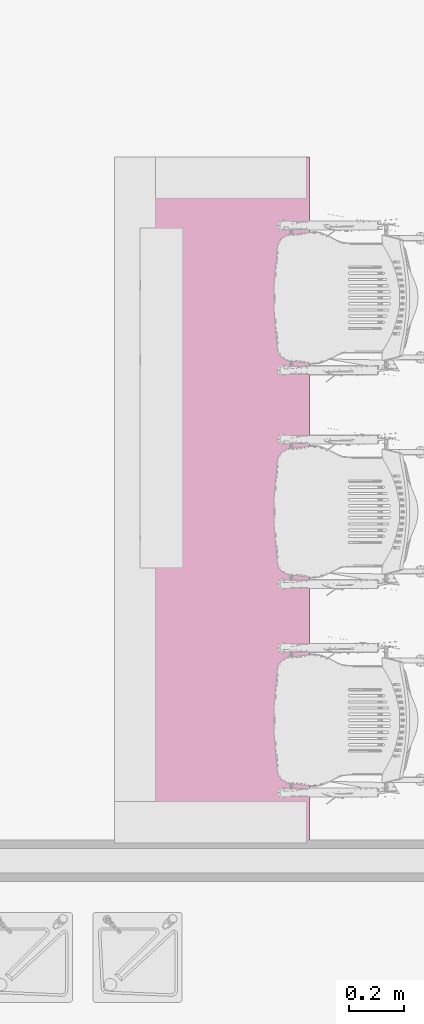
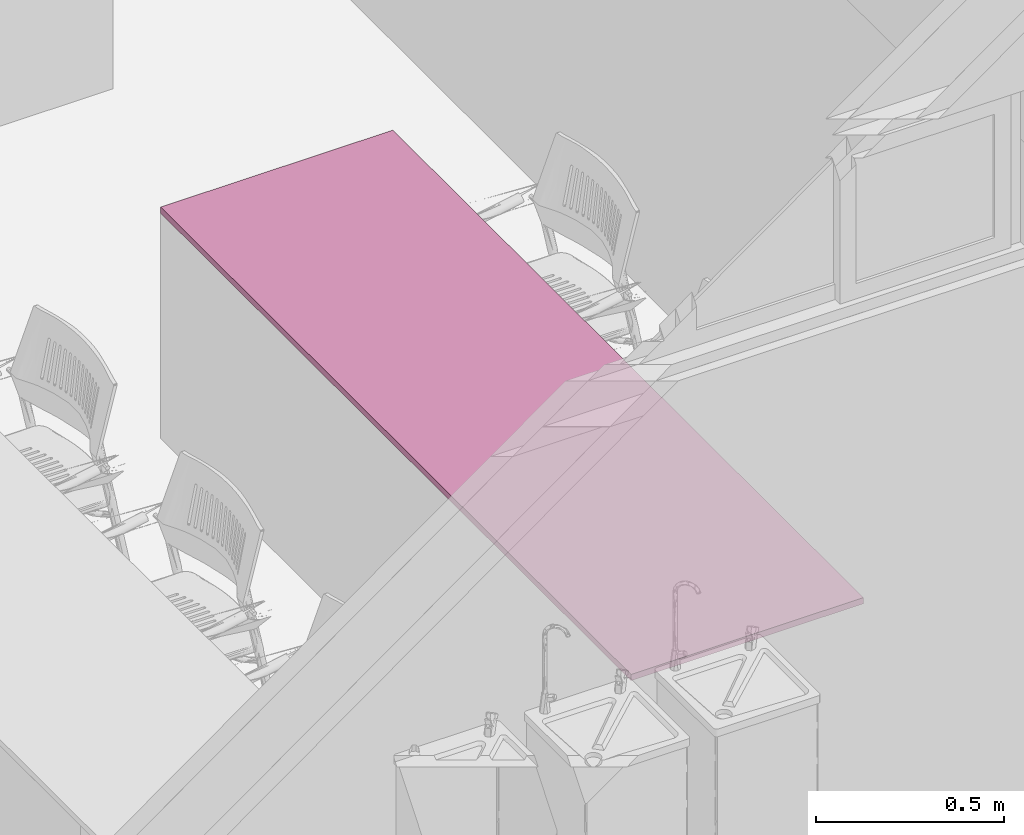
# One storey, part 147 of 155: 1 furnishing.
"""IFC2X3 building model written with IfcOpenShell, lengths in metres."""

import ifcopenshell
import ifcopenshell.guid

model = None  # the IFC model being written
_history = None  # IfcOwnerHistory: only IFC2X3 demands one
_inside = {}  # id of a spatial element -> (the spatial element, [elements in it])
_under = {}  # id of a project, library or spatial element -> (it, [spatial elements below it])
_declared = {}  # id of a project -> (the project, [libraries it declares])
_typed = {}  # id of a type object -> (the type object, [elements of that type])
_made_of = {}  # id of a material, layer set ... -> (it, [elements and type objects made of it])


def new_model(schema):
    """Start an empty IFC model of exactly this schema.

    Asked for "IFC4X3", IfcOpenShell would pick the latest addendum, in which some entities
    have other attributes; the version numbers below select the first issue.
    IFC2X3 requires an IfcOwnerHistory on every rooted entity: one is made here for all.
    """
    global model, _history
    if schema == "IFC4X3":
        model = ifcopenshell.file(schema_version=(4, 3, 0, 0))
    else:
        model = ifcopenshell.file(schema=schema)
    _inside.clear()
    _under.clear()
    _declared.clear()
    _typed.clear()
    _made_of.clear()
    _history = None
    if model.schema == "IFC2X3":
        org = make("IfcOrganization", Name="unknown")
        user = make(
            "IfcPersonAndOrganization",
            ThePerson=make("IfcPerson", FamilyName="unknown"),
            TheOrganization=org,
        )
        app = make(
            "IfcApplication",
            ApplicationDeveloper=org,
            Version="unknown",
            ApplicationFullName="unknown",
            ApplicationIdentifier="unknown",
        )
        _history = make(
            "IfcOwnerHistory",
            OwningUser=user,
            OwningApplication=app,
            ChangeAction="ADDED",
            CreationDate=0,
        )
    return model


def make(cls, **values):
    """One entity of the class cls with the attributes given. An attribute that is None is left unset."""
    return model.create_entity(
        cls, **{name: value for name, value in values.items() if value is not None}
    )


def entity(cls, *values):
    """Any entity or typed value of the class cls, its attributes in the order of the schema. None: left unset."""
    e = model.create_entity(cls)
    for i, value in enumerate(values):
        if value is not None:
            e[i] = value
    return e


def rooted(cls, **values):
    """An entity with a GlobalId (a new one), such as an element, a storey or a relation."""
    return make(cls, GlobalId=ifcopenshell.guid.new(), OwnerHistory=_history, **values)


def si_unit(unit_type, name, prefix=None):
    """IfcSIUnit, for example si_unit("LENGTHUNIT", "METRE", prefix="MILLI")."""
    return make("IfcSIUnit", UnitType=unit_type, Prefix=prefix, Name=name)


def converted_unit(unit_type, name, factor, base, dimensions=None, offset=None):
    """IfcConversionBasedUnit, such as the inch: factor (a typed value) times the base unit."""
    return make(
        "IfcConversionBasedUnit"
        if offset is None
        else "IfcConversionBasedUnitWithOffset",
        ConversionOffset=offset,
        Dimensions=None
        if dimensions is None
        else entity("IfcDimensionalExponents", *dimensions),
        UnitType=unit_type,
        Name=name,
        ConversionFactor=make(
            "IfcMeasureWithUnit", ValueComponent=factor, UnitComponent=base
        ),
    )


def derived_unit(unit_type, elements):
    """IfcDerivedUnit: a product of units, each with its exponent."""
    return make(
        "IfcDerivedUnit",
        Elements=[
            make("IfcDerivedUnitElement", Unit=unit, Exponent=power)
            for unit, power in elements
        ],
        UnitType=unit_type,
    )


def assignment(units):
    """IfcUnitAssignment: the units of a project."""
    return None if units is None else make("IfcUnitAssignment", Units=units)


def point(xyz):
    """IfcCartesianPoint."""
    return None if xyz is None else make("IfcCartesianPoint", Coordinates=xyz)


def direction(xyz):
    """IfcDirection."""
    return None if xyz is None else make("IfcDirection", DirectionRatios=xyz)


def frame(location, z_axis=None, x_axis=None):
    """IfcAxis2Placement3D, a coordinate frame: its origin and axes. An axis left out is left unset."""
    return make(
        "IfcAxis2Placement3D",
        Location=point(location),
        Axis=direction(z_axis),
        RefDirection=direction(x_axis),
    )


def frame_2d(location, x_axis=None):
    """IfcAxis2Placement2D, a coordinate frame in the plane: its origin and x axis."""
    return make(
        "IfcAxis2Placement2D", Location=point(location), RefDirection=direction(x_axis)
    )


def origin():
    """The frame at (0, 0, 0) with its axes left unset."""
    return frame((0.0, 0.0, 0.0))


def place(relative_to, where):
    """IfcLocalPlacement: puts the frame where relative to a parent placement (None: the world)."""
    return make(
        "IfcLocalPlacement", PlacementRelTo=relative_to, RelativePlacement=where
    )


def context(
    kind, dimensions, precision=None, world=None, true_north=None, identifier=None
):
    """IfcGeometricRepresentationContext, for example the 3D "Model" context."""
    return make(
        "IfcGeometricRepresentationContext",
        ContextIdentifier=identifier,
        ContextType=kind,
        CoordinateSpaceDimension=dimensions,
        Precision=precision,
        WorldCoordinateSystem=world,
        TrueNorth=true_north,
    )


def subcontext(parent, identifier, kind, view, scale=None):
    """IfcGeometricRepresentationSubContext, for example "Body" below "Model"."""
    return make(
        "IfcGeometricRepresentationSubContext",
        ContextIdentifier=identifier,
        ContextType=kind,
        ParentContext=parent,
        TargetScale=scale,
        TargetView=view,
    )


def project(units=None, contexts=None):
    """IfcProject with its units and contexts."""
    return rooted(
        "IfcProject",
        Name="project",
        RepresentationContexts=contexts,
        UnitsInContext=assignment(units),
    )


def spatial(cls, under=None, at=None, **own):
    """A site, building, storey or space (cls), placed at a placement, below another one or the project."""
    s = rooted(cls, ObjectPlacement=at, **own)
    if under is not None:
        _under.setdefault(under.id(), (under, []))[1].append(s)
    return s


def profile(cls, at=None, kind="AREA", **sizes):
    """A parametric profile (cls). Its sizes go by their IFC names, for example OverallWidth=200.0."""
    return make(cls, ProfileType=kind, Position=at, **sizes)


def rectangle(**sizes):
    """IfcRectangleProfileDef."""
    return profile("IfcRectangleProfileDef", **sizes)


def extrude(swept, where, along, depth):
    """IfcExtrudedAreaSolid: the profile swept, set in the frame where, extruded along a direction by depth."""
    return make(
        "IfcExtrudedAreaSolid",
        SweptArea=swept,
        Position=where,
        ExtrudedDirection=direction(along),
        Depth=depth,
    )


def shape(context_of_items, identifier, shape_type, items):
    """IfcShapeRepresentation: the items that make up one representation, for example the "Body"."""
    return make(
        "IfcShapeRepresentation",
        ContextOfItems=context_of_items,
        RepresentationIdentifier=identifier,
        RepresentationType=shape_type,
        Items=items,
    )


def source(mapping_origin, context_of_items, identifier, shape_type, items):
    """IfcRepresentationMap: a shape defined once, which mapped items show again and again."""
    return make(
        "IfcRepresentationMap",
        MappingOrigin=mapping_origin,
        MappedRepresentation=shape(context_of_items, identifier, shape_type, items),
    )


def transform(
    local_origin,
    x_axis=None,
    y_axis=None,
    z_axis=None,
    scale=None,
    scale2=None,
    scale3=None,
    uniform=True,
):
    """IfcCartesianTransformationOperator3D, or its non-uniform kind. x_axis, y_axis, z_axis: its Axis1, 2, 3."""
    if uniform:
        return make(
            "IfcCartesianTransformationOperator3D",
            Axis1=direction(x_axis),
            Axis2=direction(y_axis),
            LocalOrigin=point(local_origin),
            Scale=scale,
            Axis3=direction(z_axis),
        )
    return make(
        "IfcCartesianTransformationOperator3DnonUniform",
        Axis1=direction(x_axis),
        Axis2=direction(y_axis),
        LocalOrigin=point(local_origin),
        Scale=scale,
        Axis3=direction(z_axis),
        Scale2=scale2,
        Scale3=scale3,
    )


def mapped(mapping_source, mapping_target):
    """IfcMappedItem: shows the shape of a source again, moved by a transform."""
    return make(
        "IfcMappedItem", MappingSource=mapping_source, MappingTarget=mapping_target
    )


def made_of(thing, what):
    """Note that an element or type object is made of a material, layer set ...; save() writes the relation."""
    if what is not None:
        _made_of.setdefault(what.id(), (what, []))[1].append(thing)
    return thing


def type_object(cls, material=None, **own):
    """A type object (cls), such as IfcWallType, which elements share."""
    return made_of(rooted(cls, **own), material)


def type_shapes(of_type, sources):
    """Give a type object the sources (RepresentationMaps) that its elements show as mapped items."""
    of_type.RepresentationMaps = sources


def element(
    cls,
    number,
    at=None,
    inside=None,
    cuts=None,
    type_object=None,
    material=None,
    context=None,
    identifier="Body",
    shape_type=None,
    held_by="IfcProductDefinitionShape",
    body=None,
    shapes=None,
    **own,
):
    """One element of the class cls, such as IfcWall. Its Tag is "e" and its number.

    at: its placement. inside: the storey or other place that contains it. cuts: it is an
    opening in that element (IfcRelVoidsElement). A single representation is given by context,
    identifier, shape_type and body (its items); several are given by shapes. held_by: the class
    of the entity that holds the representations. save() writes the other relations.
    """
    e = rooted(cls, Tag="e%d" % number, ObjectPlacement=at, **own)
    if body is not None:
        shapes = [shape(context, identifier, shape_type, body)]
    if shapes is not None:
        e.Representation = make(held_by, Representations=shapes)
    if inside is not None:
        _inside.setdefault(inside.id(), (inside, []))[1].append(e)
    if cuts is not None:
        rooted(
            "IfcRelVoidsElement", RelatingBuildingElement=cuts, RelatedOpeningElement=e
        )
    if type_object is not None:
        _typed.setdefault(type_object.id(), (type_object, []))[1].append(e)
    return made_of(e, material)


def aggregate(whole, parts):
    """IfcRelAggregates: a whole, such as a stair, and the parts it consists of."""
    return rooted("IfcRelAggregates", RelatingObject=whole, RelatedObjects=parts)


def save(model, path):
    """Write the relations noted so far, then the file.

    IfcRelAggregates (storeys below a building ...), IfcRelContainedInSpatialStructure (elements
    in a storey), IfcRelDefinesByType, IfcRelAssociatesMaterial and IfcRelDeclares: one each for
    every whole, place, type object, material and project.
    """
    for whole, parts in _under.values():
        aggregate(whole, parts)
    for where, things in _inside.values():
        rooted(
            "IfcRelContainedInSpatialStructure",
            RelatedElements=things,
            RelatingStructure=where,
        )
    for kind, things in _typed.values():
        rooted("IfcRelDefinesByType", RelatedObjects=things, RelatingType=kind)
    for what, things in _made_of.values():
        rooted("IfcRelAssociatesMaterial", RelatedObjects=things, RelatingMaterial=what)
    for by, libraries in _declared.values():
        rooted("IfcRelDeclares", RelatingContext=by, RelatedDefinitions=libraries)
    model.write(path)


model = new_model("IFC2X3")

# Units and contexts
model_context = context("Model", 3, precision=1e-05, world=origin(), true_north=direction((6.12303176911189e-17, 1.0)))
body_context = subcontext(model_context, "Body", "Model", "MODEL_VIEW")
ifc_project = project(units=[si_unit("LENGTHUNIT", "METRE"), si_unit("AREAUNIT", "SQUARE_METRE"), si_unit("VOLUMEUNIT", "CUBIC_METRE"), converted_unit("PLANEANGLEUNIT", "DEGREE", entity("IfcRatioMeasure", 0.0174532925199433), si_unit("PLANEANGLEUNIT", "RADIAN"), dimensions=[0, 0, 0, 0, 0, 0, 0]), si_unit("MASSUNIT", "GRAM", prefix="KILO"), derived_unit("MASSDENSITYUNIT", [(si_unit("MASSUNIT", "GRAM", prefix="KILO"), 1), (si_unit("LENGTHUNIT", "METRE"), -3)]), si_unit("TIMEUNIT", "SECOND"), si_unit("FREQUENCYUNIT", "HERTZ"), si_unit("THERMODYNAMICTEMPERATUREUNIT", "DEGREE_CELSIUS"), derived_unit("THERMALTRANSMITTANCEUNIT", [(si_unit("MASSUNIT", "GRAM", prefix="KILO"), 1), (si_unit("THERMODYNAMICTEMPERATUREUNIT", "KELVIN"), -1), (si_unit("TIMEUNIT", "SECOND"), -3)]), derived_unit("VOLUMETRICFLOWRATEUNIT", [(si_unit("LENGTHUNIT", "METRE"), 3), (si_unit("TIMEUNIT", "SECOND"), -1)]), si_unit("ELECTRICCURRENTUNIT", "AMPERE"), si_unit("ELECTRICVOLTAGEUNIT", "VOLT"), si_unit("POWERUNIT", "WATT"), si_unit("FORCEUNIT", "NEWTON", prefix="KILO"), si_unit("ILLUMINANCEUNIT", "LUX"), si_unit("LUMINOUSFLUXUNIT", "LUMEN"), si_unit("LUMINOUSINTENSITYUNIT", "CANDELA"), derived_unit("USERDEFINED", [(si_unit("MASSUNIT", "GRAM", prefix="KILO"), -1), (si_unit("LENGTHUNIT", "METRE"), -2), (si_unit("TIMEUNIT", "SECOND"), 3), (si_unit("LUMINOUSFLUXUNIT", "LUMEN"), 1)]), derived_unit("LINEARVELOCITYUNIT", [(si_unit("LENGTHUNIT", "METRE"), 1), (si_unit("TIMEUNIT", "SECOND"), -1)]), si_unit("PRESSUREUNIT", "PASCAL"), derived_unit("USERDEFINED", [(si_unit("LENGTHUNIT", "METRE"), -2), (si_unit("MASSUNIT", "GRAM", prefix="KILO"), 1), (si_unit("TIMEUNIT", "SECOND"), -2)])], contexts=[model_context])

# Site, building, storey, space
site_placement = place(None, frame((26.9889013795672, -17.5624287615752, 0.0)))
site = spatial("IfcSite", under=ifc_project, at=site_placement, Name="Default", CompositionType="ELEMENT")
building_placement = place(site_placement, origin())
building = spatial("IfcBuilding", under=site, at=building_placement, Name="C. C. L. Monsenhor Antônio Sampaio", CompositionType="ELEMENT")
storey_placement = place(building_placement, frame((0.0, 0.0, 1.19999999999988)))
storey = spatial("IfcBuildingStorey", under=building, at=storey_placement, Name="Nível 1.2", CompositionType="ELEMENT", Elevation=1.19999999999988)
space_placement = place(storey_placement, origin())
space = spatial("IfcSpace", under=storey, at=space_placement, Name="89", CompositionType="ELEMENT", InteriorOrExteriorSpace="INTERNAL")

# Furnishing
furniture_type = type_object("IfcFurnitureType", Name="Bancada")
shared_shape = source(origin(), body_context, "Body", "SweptSolid", [
    extrude(rectangle(XDim=0.712499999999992, YDim=2.5, at=frame_2d((1.08246744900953e-15, 1.11022302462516e-15), x_axis=(1.0, 0.0))), frame((10.4831977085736, -15.5130663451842, 1.92999999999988)), (0.0, 0.0, 1.0), 0.0200000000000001),
])
type_shapes(furniture_type, [shared_shape])
furnishing_placement = place(space_placement, frame((0.0, 0.0, -1.19999999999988)))
element("IfcFurnishingElement", 1, at=furnishing_placement, inside=space, type_object=furniture_type, Name="Bancada_balcao:Bancada", ObjectType="Bancada", context=body_context, shape_type="MappedRepresentation", body=[
    mapped(shared_shape, transform((0.0, 0.0, 0.0), scale=1.0)),
])

save(model, "model.ifc")
